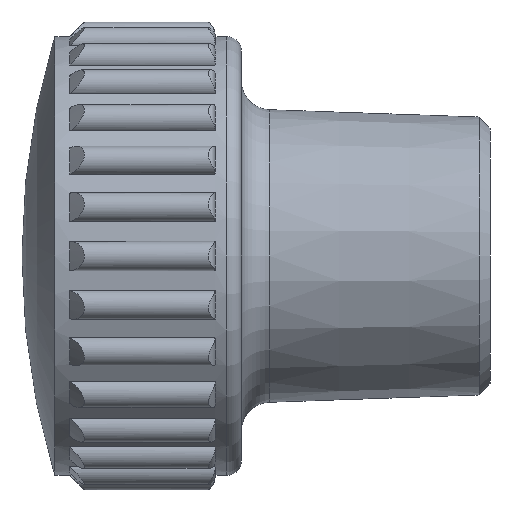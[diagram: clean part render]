
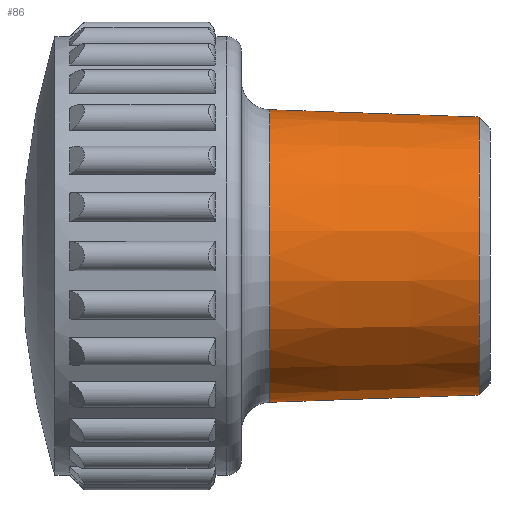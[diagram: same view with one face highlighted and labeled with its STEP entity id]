
A CAD part, left-side view. The second image highlights one B-rep face of the part: STEP entity #86.
In plain terms, the highlighted conical face has half-angle 2 degrees and reference radius 10 mm.
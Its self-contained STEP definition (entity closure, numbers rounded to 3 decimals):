
#86 = ADVANCED_FACE( '', ( #226, #227 ), #228, .T. );
#226 = FACE_BOUND( '', #455, .T. );
#227 = FACE_OUTER_BOUND( '', #456, .T. );
#228 = CONICAL_SURFACE( '', #457, 10., 0.035 );
#455 = EDGE_LOOP( '', ( #798 ) );
#456 = EDGE_LOOP( '', ( #799 ) );
#457 = AXIS2_PLACEMENT_3D( '', #800, #801, #802 );
#798 = ORIENTED_EDGE( '', *, *, #1397, .F. );
#799 = ORIENTED_EDGE( '', *, *, #1398, .T. );
#800 = CARTESIAN_POINT( '', ( 0., 15.07, 0. ) );
#801 = DIRECTION( '', ( 0., 1., 0. ) );
#802 = DIRECTION( '', ( 0., 0., 1. ) );
#1397 = EDGE_CURVE( '', #1694, #1694, #1695, .T. );
#1398 = EDGE_CURVE( '', #1696, #1696, #1697, .T. );
#1694 = VERTEX_POINT( '', #2164 );
#1695 = CIRCLE( '', #2165, 9.5 );
#1696 = VERTEX_POINT( '', #2166 );
#1697 = CIRCLE( '', #2167, 10. );
#2164 = CARTESIAN_POINT( '', ( 0., 0.749, -9.5 ) );
#2165 = AXIS2_PLACEMENT_3D( '', #3414, #3415, #3416 );
#2166 = CARTESIAN_POINT( '', ( 0., 15.07, -10. ) );
#2167 = AXIS2_PLACEMENT_3D( '', #3417, #3418, #3419 );
#3414 = CARTESIAN_POINT( '', ( 0., 0.749, 0. ) );
#3415 = DIRECTION( '', ( 0., -1., 0. ) );
#3416 = DIRECTION( '', ( 0., 0., -1. ) );
#3417 = CARTESIAN_POINT( '', ( 0., 15.07, 0. ) );
#3418 = DIRECTION( '', ( 0., -1., 0. ) );
#3419 = DIRECTION( '', ( 0., 0., -1. ) );
